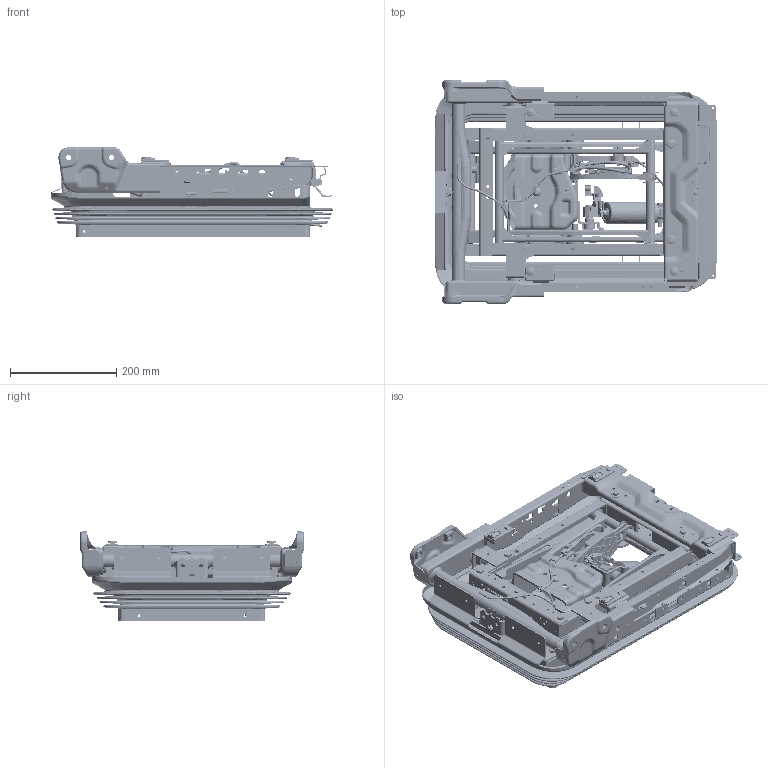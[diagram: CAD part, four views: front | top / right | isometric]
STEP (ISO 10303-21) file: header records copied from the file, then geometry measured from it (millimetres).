
FILE_DESCRIPTION(('CATIA V5 STEP Exchange'),'2;1');
FILE_NAME('C:\Users\Administrator\Desktop\底座模块化-安全带卷轴器前移12mm样件制作-20231222.stp','2023-12-22T06:18:46+00:00',('none'),('none'),'CATIA Version 5 Release 20 GA (IN-10)','CATIA V5 STEP AP214','none');
FILE_SCHEMA(('AUTOMOTIVE_DESIGN { 1 0 10303 214 1 1 1 1 }'));
Products named in the file (117): SHT0016033; SQX3000-6805472; BCL0010006; BSP0010024; SHT0013256; SHT0014606; SHT0014512; SHT0012268; Q37110; H4B-6805326; SHT0012266; SHT0012269; SHT0012267; SHT0014512-H; SHT0015081; H4B-6805319; SQX3000-6805318; SHT0014604; SQX3000-6805317; H4A-6805326; SHT0014605; SQX3000-6805319; SHT0014596; SHT0014563; SHT0014565; SHT0014594; Q37106; SHT0014596-H; SHT0015145; SHT0015081-H; SHT0015938; SHT0015924; BFA0000400; H5-6801110; BFA0010096; BFA0010093; SHT0016657; SQX3000-6805439; SQX3000-6805438; SQX3000-6805434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
Assembly tree (177 placements, depth 6):
  SHT0016033
    SQX3000-6805472  x2
    BCL0010006  x2
    BSP0010024  x4
    SHT0013256
    SHT0014606
      SHT0014512
        SHT0012268
          Q37110  x2
          H4B-6805326
          SHT0012266
        SHT0012269
          SHT0012267
          Q37110  x2
          H4B-6805326
        SHT0014512-H
        SHT0015081
          H4B-6805319
          SQX3000-6805318  x2
          SHT0014604
            SQX3000-6805317
            H4A-6805326
          SHT0014605
            SQX3000-6805319
            H4A-6805326
          SHT0014596
            SHT0014563
            SHT0014565
            SHT0014594  x2
            Q37106
            SHT0014596-H
            SHT0015145
          SHT0015081-H
          SHT0015938
            SHT0015924
            BFA0000400
      H5-6801110  x4
      BFA0010096  x4
    BFA0010093  x2
    SHT0016657
      SQX3000-6805439
        SQX3000-6805438
          SQX3000-6805434
          SHT0010521
          SQX3000-6805448  x2
            SQX3000-6805473
            SQX3000-6805467
          SHT0010524
            SHT0010523
            SHT0010522
          SHT0011596
        SQX3000-6805437
          SHT0011596  x2
          SQX3000-6805447  x2
            SQX3000-6805425
            SQX3000-6805433
          SQX3000-6805479
            SQX3000-6805477
            SQX3000-6805478
          SHT0001085
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Bounding box: 530.81 x 420.09 x 168.04 mm (x, y, z)
Volume: 3463903.5 mm3; surface area: 2842371.3 mm2
Topology: 236 solids, 243 shells, 13311 faces, 34659 edges, 21957 vertices
Faces by surface type: cylinder 5016, plane 4531, bspline 1716, cone 815, torus 778, extrusion 261, sphere 166, revolution 28
Entity records: 517317 total; most frequent: CARTESIAN_POINT 283450, ORIENTED_EDGE 53546, DIRECTION 34276, EDGE_CURVE 26787, VERTEX_POINT 17133, AXIS2_PLACEMENT_3D 14447, VECTOR 11772, LINE 11549
